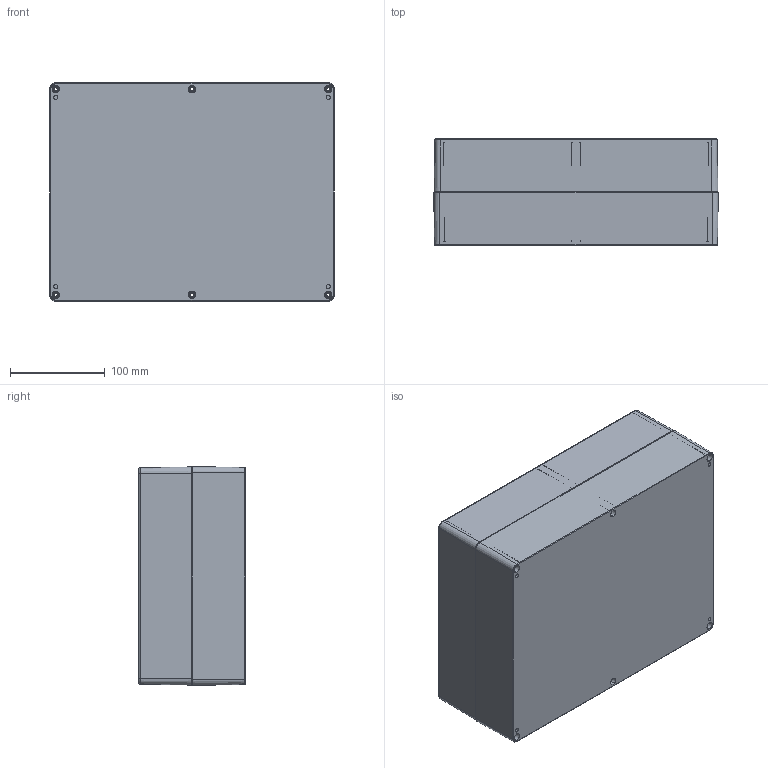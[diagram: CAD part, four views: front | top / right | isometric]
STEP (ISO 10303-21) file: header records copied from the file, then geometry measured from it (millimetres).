
FILE_DESCRIPTION (( 'STEP AP203' ), '1' );
FILE_NAME ('PE270.STEP', '2020-01-30T07:23:13', ( '' ), ( '' ), 'SwSTEP 2.0', 'SolidWorks 2020', '' );
FILE_SCHEMA (( 'CONFIG_CONTROL_DESIGN' ));
Length unit declared in the file: millimetre
Products named in the file (4): PE270
Assembly tree (3 placements, depth 2):
  PE270
    PE270
    PE270
    PE270
Bounding box: 300.57 x 112 x 230.97 mm (x, y, z)
Volume: 1107349.6 mm3; surface area: 672942.8 mm2
Topology: 9 solids, 9 shells, 1222 faces, 3284 edges, 2140 vertices
Faces by surface type: cylinder 382, bspline 364, cone 252, plane 216, torus 8
Entity records: 43028 total; most frequent: CARTESIAN_POINT 13932, ORIENTED_EDGE 6496, DIRECTION 5352, EDGE_CURVE 3248, VERTEX_POINT 2140, AXIS2_PLACEMENT_3D 2026, EDGE_LOOP 1386, VECTOR 1300
